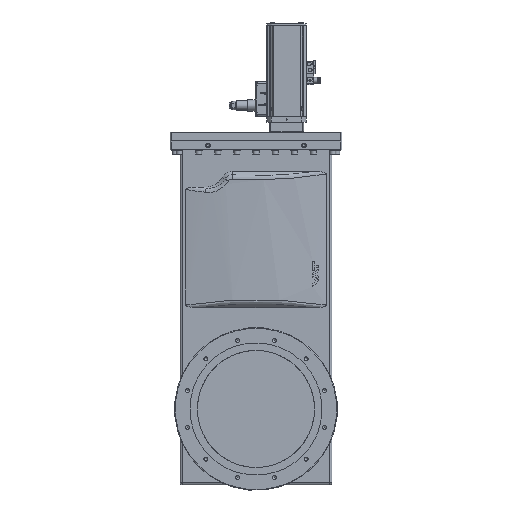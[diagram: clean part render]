
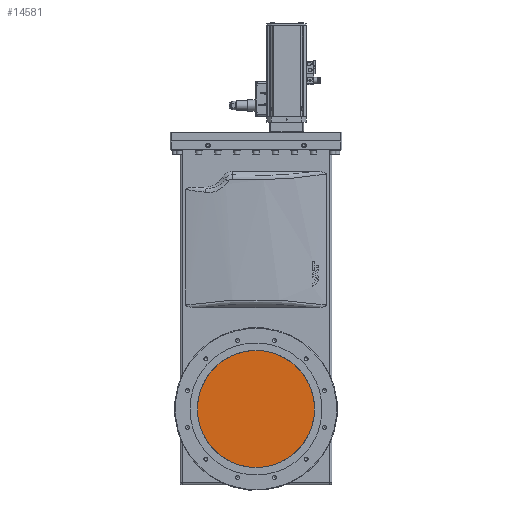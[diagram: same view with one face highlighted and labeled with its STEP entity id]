
A CAD part, front view. The second image highlights one B-rep face of the part: STEP entity #14581.
In plain terms, the highlighted planar face has unit normal (0, -1, 0) as drawn and (0, 0, -1) by its records, which use the part's own axes.
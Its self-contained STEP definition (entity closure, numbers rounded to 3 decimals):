
#12773=FACE_OUTER_BOUND('',#19205,.T.);
#14581=ADVANCED_FACE('',(#12773),#15556,.F.);
#15556=PLANE('',#43817);
#19205=EDGE_LOOP('',(#32646));
#32646=ORIENTED_EDGE('',*,*,#39759,.F.);
#35585=VERTEX_POINT('',#68862);
#39759=EDGE_CURVE('',#35585,#35585,#40936,.T.);
#40936=CIRCLE('',#43814,165.);
#43814=AXIS2_PLACEMENT_3D('',#68861,#51760,#51761);
#43817=AXIS2_PLACEMENT_3D('',#68865,#51766,#51767);
#51760=DIRECTION('',(0.,0.,1.));
#51761=DIRECTION('',(1.,0.,0.));
#51766=DIRECTION('',(0.,0.,1.));
#51767=DIRECTION('',(1.,0.,0.));
#68861=CARTESIAN_POINT('',(0.,0.,0.));
#68862=CARTESIAN_POINT('',(165.,0.,0.));
#68865=CARTESIAN_POINT('',(0.,0.,0.));
